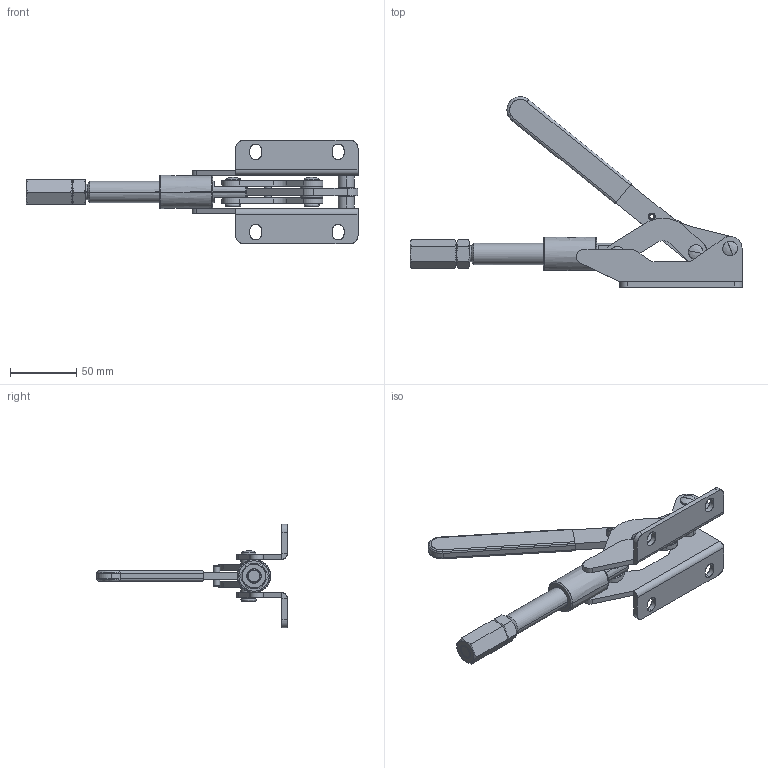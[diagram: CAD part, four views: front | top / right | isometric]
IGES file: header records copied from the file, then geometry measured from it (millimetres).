
Start section: SolidWorks IGES file using analytic representation for surfaces
Global section: file name: \\KOUGU-SV1\Public\Solidworks\工具事業部\坂入用\Toggle clamp\ISK-50B0-T1\ISK-50B0_AssyT1.IGS; native system: SolidWorks 2020; preprocessor: SolidWorks 2020; author: design_room 03; date: 211110.163849; units: millimetre
Bounding box: 250 x 143.37 x 78 mm (x, y, z)
Surface area: 75395.8 mm2 (no closed solid volume)
Topology: 0 solids, 0 shells, 297 faces, 4770 edges, 4764 vertices
Faces by surface type: revolution 163, bspline 134
